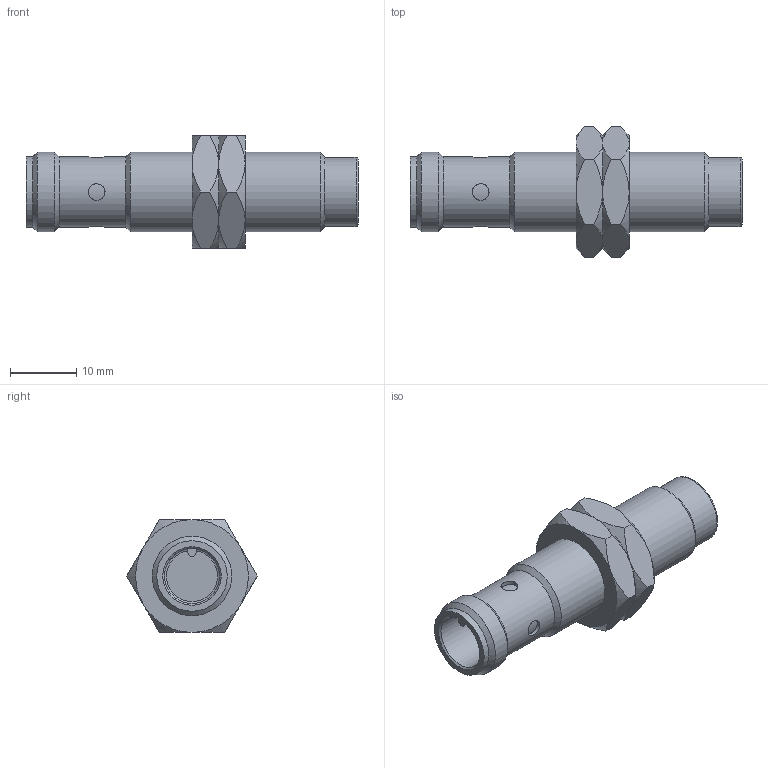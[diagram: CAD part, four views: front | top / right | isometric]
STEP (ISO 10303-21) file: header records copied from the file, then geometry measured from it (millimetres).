
FILE_DESCRIPTION( ( 'STEP AP203' ), '1' );
FILE_NAME( 'p:/temp/worker_179/2924_1392/app_43_02015021008121945509138192d056f_00_00_00_000/STEP/IFS205_2_03.stp', ' ', ( ' ' ), ( ' ' ), 'PSStep 15.0.47', 'PARTsolutions', ' ' );
FILE_SCHEMA( ( 'CONFIG_CONTROL_DESIGN' ) );
Length unit declared in the file: millimetre
Products named in the file (3): IFS205; _IFS205_p1; _SW17_L4_M12
Assembly tree (3 placements, depth 2):
  IFS205
    _IFS205_p1
    _SW17_L4_M12  x2
Bounding box: 50 x 19.63 x 17 mm (x, y, z)
Volume: 5908.3 mm3; surface area: 3538.6 mm2
Topology: 3 solids, 3 shells, 75 faces, 154 edges, 90 vertices
Faces by surface type: cone 33, plane 23, cylinder 17, torus 2
Full cylindrical faces by diameter (mm): 2.5 x4, 8.3 x1, 10.4 x1, 10.55 x1, 10.6 x1, 10.917 x2, 12 x2
Entity records: 1748 total; most frequent: CARTESIAN_POINT 681, DIRECTION 196, ORIENTED_EDGE 166, AXIS2_PLACEMENT_3D 91, EDGE_CURVE 83, EDGE_LOOP 79, FACE_OUTER_BOUND 64, VERTEX_POINT 60
